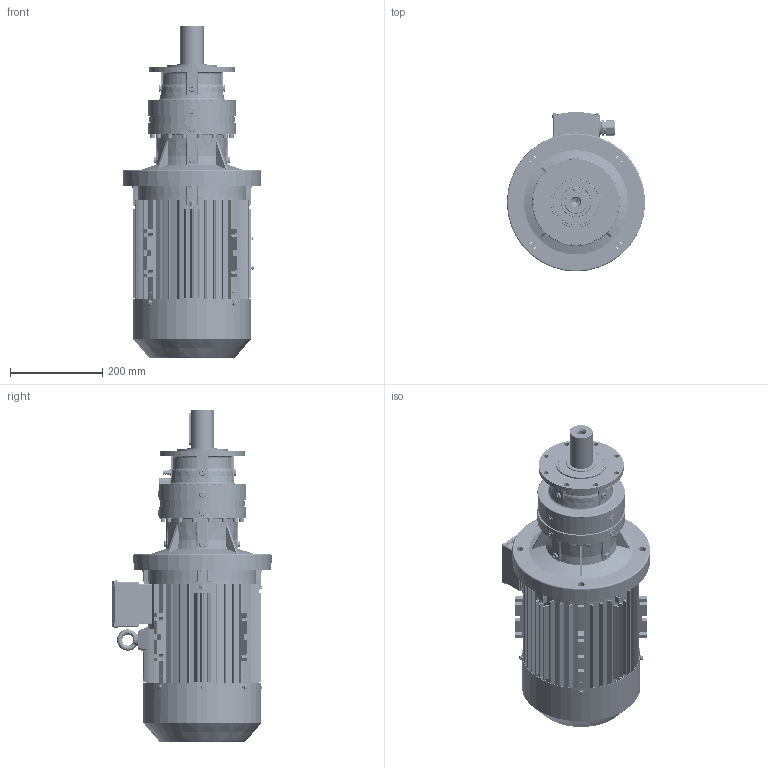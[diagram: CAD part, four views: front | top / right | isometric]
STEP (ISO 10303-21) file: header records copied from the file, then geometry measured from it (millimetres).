
FILE_DESCRIPTION (( 'STEP AP203' ), '1' );
FILE_NAME ('PVL-1101L-MX132S-4.STEP', '2019-05-17T07:55:47', ( '' ), ( '' ), 'SwSTEP 2.0', 'SolidWorks 2012', '' );
FILE_SCHEMA (( 'CONFIG_CONTROL_DESIGN' ));
Products named in the file (35): plain parallel keys_GB_CONNECTING_PIECE_KEYS_CSK 10X70_1; PVL-1101L-MX132S-4; cross recessed pan head screws gb_GB_CROSS_SCREWS_TYPE1 M5X8-8  H type-N_1; MX3-132S_B5; hexagon socket head cap screws gb_GB_FASTENER_SCREWS_HSHCS M8X45-N; cross recessed pan head screws gb_GB_CROSS_SCREWS_TYPE1 M5X25-25  H type-N_1; DMX-IE3 132S4 fan_1; eyebolts gb_GB_FASTENER_SCREWS_FRS M10-S_1; plain washers--product grade c gb_GB_FASTENER_WASHER_SMWC 4_1; cross recessed pan head screws gb_GB_CROSS_SCREWS_TYPE1 M4X6-6  H type-N_1; DMX-IE3 132S4 grouding mark_1; DMX-IE3 132S4   gasket for terminal box cover_1; circlips for shaft--type a large gb_GB_CONNECTING_PIECE_RING_RRA 29_1; DMX-IE3 132S4  oil seal_1; DMX-IE3 132S4  cable glands_1; DMX-IE3 132S4  connection board_1; hexagon socket head cap screws gb_GB_FASTENER_SCREWS_HSHCS M8X35-N_1; spring lock washers--normal type gb_GB_FASTENER_WASHER_SW 8_1; DMX-IE3 132S4   gasket for terminal box base_1; DMX-IE3 132S4   fan cover_1; cross recessed pan head screws gb_GB_CROSS_SCREWS_TYPE1 M5X10-10  H type-N_1; hexagon nuts grade c gb_GB_FASTENER_NUT_SNC1 M8-N_1; hex flange bolts-heavy grade b gb_GB_FASTENER_BOLT_HFBB M5X10-N_1; DMX-IE3 132S4   terminal box cover_1; DMX-IE3 132S4   rotor2_1; DMX-IE3 132S4  terminal box_1; DMX-IE3 132S4  flange B5; DMX-IE3 132S4  casing_1; DMX-IE3 132S4  flange B3_1; DMX-IE3 132S4   rotor1_1; FL1A; PNL_1101L_0_0_A13_B5_ML7A_FL1A_0_0_0_0_0_0_0_0_0_0_0_M1; ML7A; 11132B5; P11
Assembly tree (66 placements, depth 3):
  PVL-1101L-MX132S-4
    PNL_1101L_0_0_A13_B5_ML7A_FL1A_0_0_0_0_0_0_0_0_0_0_0_M1
      P11
      11132B5
      ML7A
      FL1A
    MX3-132S_B5
      DMX-IE3 132S4  casing_1
      DMX-IE3 132S4  flange B5
      DMX-IE3 132S4  flange B3_1
      DMX-IE3 132S4   rotor1_1
      DMX-IE3 132S4   rotor2_1
      DMX-IE3 132S4   terminal box cover_1
      DMX-IE3 132S4  terminal box_1
      DMX-IE3 132S4   fan cover_1
      hex flange bolts-heavy grade b gb_GB_FASTENER_BOLT_HFBB M5X10-N_1  x4
      cross recessed pan head screws gb_GB_CROSS_SCREWS_TYPE1 M5X10-10  H type-N_1  x4
      hexagon nuts grade c gb_GB_FASTENER_NUT_SNC1 M8-N_1  x7
      spring lock washers--normal type gb_GB_FASTENER_WASHER_SW 8_1  x8
      hexagon socket head cap screws gb_GB_FASTENER_SCREWS_HSHCS M8X35-N_1  x5
      DMX-IE3 132S4   gasket for terminal box base_1
      DMX-IE3 132S4  connection board_1
      DMX-IE3 132S4   gasket for terminal box cover_1
      DMX-IE3 132S4  oil seal_1
      DMX-IE3 132S4  cable glands_1  x2
      circlips for shaft--type a large gb_GB_CONNECTING_PIECE_RING_RRA 29_1
      DMX-IE3 132S4 grouding mark_1
      cross recessed pan head screws gb_GB_CROSS_SCREWS_TYPE1 M4X6-6  H type-N_1  x3
      eyebolts gb_GB_FASTENER_SCREWS_FRS M10-S_1
      plain washers--product grade c gb_GB_FASTENER_WASHER_SMWC 4_1
      hexagon socket head cap screws gb_GB_FASTENER_SCREWS_HSHCS M8X45-N  x3
      DMX-IE3 132S4 fan_1
      cross recessed pan head screws gb_GB_CROSS_SCREWS_TYPE1 M5X25-25  H type-N_1  x2
      cross recessed pan head screws gb_GB_CROSS_SCREWS_TYPE1 M5X8-8  H type-N_1  x4
      plain parallel keys_GB_CONNECTING_PIECE_KEYS_CSK 10X70_1
Bounding box: 300 x 345 x 720.1 mm (x, y, z)
Volume: 11135001.5 mm3; surface area: 2167963.3 mm2
Topology: 71 solids, 73 shells, 5644 faces, 14874 edges, 9567 vertices
Faces by surface type: plane 3137, cylinder 1469, cone 528, bspline 417, torus 93
Entity records: 178944 total; most frequent: CARTESIAN_POINT 50079, ORIENTED_EDGE 26316, DIRECTION 25148, EDGE_CURVE 13158, AXIS2_PLACEMENT_3D 8587, VERTEX_POINT 8529, VECTOR 7974, LINE 7974
